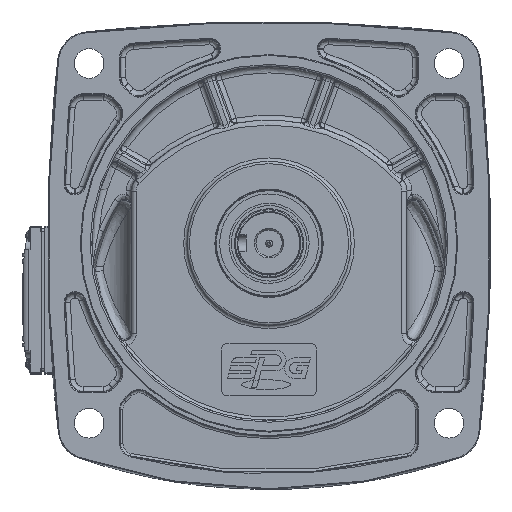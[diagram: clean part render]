
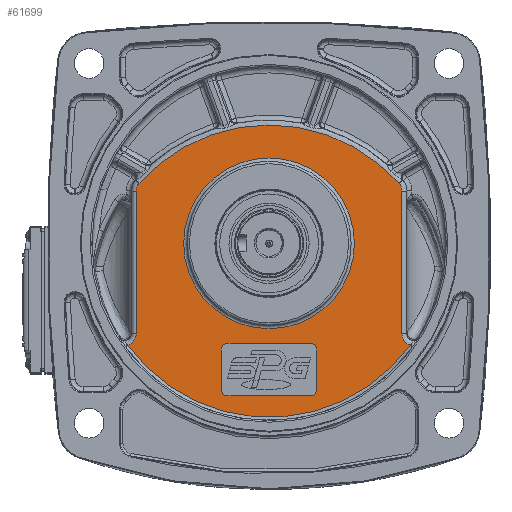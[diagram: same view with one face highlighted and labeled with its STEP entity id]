
A CAD part, top view. The second image highlights one B-rep face of the part: STEP entity #61699.
In plain terms, the highlighted planar face has unit normal (0, 0, 1).
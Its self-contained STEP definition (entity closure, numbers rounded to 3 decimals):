
#688=FACE_BOUND('',#15010,.T.);
#689=FACE_BOUND('',#15011,.T.);
#1406=PLANE('',#67231);
#3687=LINE('',#125399,#6488);
#3691=LINE('',#125411,#6492);
#3695=LINE('',#125423,#6496);
#3792=LINE('',#125699,#6593);
#4032=LINE('',#132457,#6833);
#4033=LINE('',#132472,#6834);
#6488=VECTOR('',#78069,10.);
#6492=VECTOR('',#78081,10.);
#6496=VECTOR('',#78093,10.);
#6593=VECTOR('',#78340,10.);
#6833=VECTOR('',#79656,10.);
#6834=VECTOR('',#79659,10.);
#11132=FACE_OUTER_BOUND('',#15009,.T.);
#15009=EDGE_LOOP('',(#49114,#49115,#49116,#49117,#49118,#49119,#49120,#49121));
#15010=EDGE_LOOP('',(#49122,#49123,#49124,#49125,#49126,#49127,#49128,#49129));
#15011=EDGE_LOOP('',(#49130));
#18480=CIRCLE('',#66609,4.);
#18482=CIRCLE('',#66613,4.);
#18484=CIRCLE('',#66617,4.);
#18486=CIRCLE('',#66621,4.);
#18807=CIRCLE('',#67227,105.999);
#18811=CIRCLE('',#67232,106.076);
#18812=CIRCLE('',#67233,52.);
#21830=B_SPLINE_CURVE_WITH_KNOTS('',3,(#132432,#132433,#132434,#132435,
#132436,#132437),.UNSPECIFIED.,.F.,.F.,(4,1,1,4),(0.901,1.027,
1.54,1.797),.UNSPECIFIED.);
#21832=B_SPLINE_CURVE_WITH_KNOTS('',3,(#132449,#132450,#132451,#132452,
#132453,#132454,#132455),.UNSPECIFIED.,.F.,.F.,(4,1,1,1,4),(0.,
0.257,0.513,0.77,0.896),
 .UNSPECIFIED.);
#21833=B_SPLINE_CURVE_WITH_KNOTS('',3,(#132459,#132460,#132461,#132462,
#132463),.UNSPECIFIED.,.F.,.F.,(4,1,4),(0.,0.217,0.507),
 .UNSPECIFIED.);
#21834=B_SPLINE_CURVE_WITH_KNOTS('',3,(#132467,#132468,#132469,#132470,
#132471),.UNSPECIFIED.,.F.,.F.,(4,1,4),(0.,0.29,0.507),
 .UNSPECIFIED.);
#25912=VERTEX_POINT('',#125389);
#25913=VERTEX_POINT('',#125391);
#25915=VERTEX_POINT('',#125397);
#25917=VERTEX_POINT('',#125403);
#25919=VERTEX_POINT('',#125409);
#25921=VERTEX_POINT('',#125415);
#25923=VERTEX_POINT('',#125421);
#25925=VERTEX_POINT('',#125427);
#26443=VERTEX_POINT('',#132226);
#26444=VERTEX_POINT('',#132228);
#26448=VERTEX_POINT('',#132431);
#26450=VERTEX_POINT('',#132448);
#26451=VERTEX_POINT('',#132456);
#26452=VERTEX_POINT('',#132458);
#26453=VERTEX_POINT('',#132464);
#26454=VERTEX_POINT('',#132466);
#26455=VERTEX_POINT('',#132473);
#33349=EDGE_CURVE('',#25912,#25913,#18480,.T.);
#33353=EDGE_CURVE('',#25912,#25915,#3687,.T.);
#33356=EDGE_CURVE('',#25917,#25915,#18482,.T.);
#33359=EDGE_CURVE('',#25917,#25919,#3691,.T.);
#33362=EDGE_CURVE('',#25921,#25919,#18484,.T.);
#33365=EDGE_CURVE('',#25921,#25923,#3695,.T.);
#33368=EDGE_CURVE('',#25925,#25923,#18486,.T.);
#33504=EDGE_CURVE('',#25925,#25913,#3792,.T.);
#34269=EDGE_CURVE('',#26443,#26444,#18807,.T.);
#34276=EDGE_CURVE('',#26444,#26448,#21830,.T.);
#34279=EDGE_CURVE('',#26450,#26443,#21832,.T.);
#34280=EDGE_CURVE('',#26451,#26450,#4032,.T.);
#34281=EDGE_CURVE('',#26452,#26451,#21833,.T.);
#34282=EDGE_CURVE('',#26453,#26452,#18811,.T.);
#34283=EDGE_CURVE('',#26454,#26453,#21834,.T.);
#34284=EDGE_CURVE('',#26448,#26454,#4033,.T.);
#34285=EDGE_CURVE('',#26455,#26455,#18812,.T.);
#49114=ORIENTED_EDGE('',*,*,#34269,.F.);
#49115=ORIENTED_EDGE('',*,*,#34279,.F.);
#49116=ORIENTED_EDGE('',*,*,#34280,.F.);
#49117=ORIENTED_EDGE('',*,*,#34281,.F.);
#49118=ORIENTED_EDGE('',*,*,#34282,.F.);
#49119=ORIENTED_EDGE('',*,*,#34283,.F.);
#49120=ORIENTED_EDGE('',*,*,#34284,.F.);
#49121=ORIENTED_EDGE('',*,*,#34276,.F.);
#49122=ORIENTED_EDGE('',*,*,#33365,.T.);
#49123=ORIENTED_EDGE('',*,*,#33368,.F.);
#49124=ORIENTED_EDGE('',*,*,#33504,.T.);
#49125=ORIENTED_EDGE('',*,*,#33349,.F.);
#49126=ORIENTED_EDGE('',*,*,#33353,.T.);
#49127=ORIENTED_EDGE('',*,*,#33356,.F.);
#49128=ORIENTED_EDGE('',*,*,#33359,.T.);
#49129=ORIENTED_EDGE('',*,*,#33362,.F.);
#49130=ORIENTED_EDGE('',*,*,#34285,.F.);
#61699=ADVANCED_FACE('',(#11132,#688,#689),#1406,.F.);
#66609=AXIS2_PLACEMENT_3D('',#125392,#78062,#78063);
#66613=AXIS2_PLACEMENT_3D('',#125405,#78075,#78076);
#66617=AXIS2_PLACEMENT_3D('',#125417,#78087,#78088);
#66621=AXIS2_PLACEMENT_3D('',#125429,#78099,#78100);
#67227=AXIS2_PLACEMENT_3D('',#132229,#79646,#79647);
#67231=AXIS2_PLACEMENT_3D('',#132447,#79654,#79655);
#67232=AXIS2_PLACEMENT_3D('',#132465,#79657,#79658);
#67233=AXIS2_PLACEMENT_3D('',#132474,#79660,#79661);
#78062=DIRECTION('center_axis',(0.,0.,1.));
#78063=DIRECTION('ref_axis',(0.707,0.707,0.));
#78069=DIRECTION('',(0.,-1.,0.));
#78075=DIRECTION('center_axis',(0.,0.,1.));
#78076=DIRECTION('ref_axis',(0.707,-0.707,0.));
#78081=DIRECTION('',(-1.,0.,0.));
#78087=DIRECTION('center_axis',(0.,0.,1.));
#78088=DIRECTION('ref_axis',(-0.707,-0.707,0.));
#78093=DIRECTION('',(0.,1.,0.));
#78099=DIRECTION('center_axis',(0.,0.,1.));
#78100=DIRECTION('ref_axis',(-0.707,0.707,0.));
#78340=DIRECTION('',(1.,0.,0.));
#79646=DIRECTION('center_axis',(0.,0.,-1.));
#79647=DIRECTION('ref_axis',(0.,-1.,0.));
#79654=DIRECTION('center_axis',(0.,0.,-1.));
#79655=DIRECTION('ref_axis',(-1.,0.,0.));
#79656=DIRECTION('',(0.,-1.,0.));
#79657=DIRECTION('center_axis',(0.,0.,-1.));
#79658=DIRECTION('ref_axis',(0.,1.,0.));
#79659=DIRECTION('',(0.,1.,0.));
#79660=DIRECTION('center_axis',(0.,0.,1.));
#79661=DIRECTION('ref_axis',(-1.,0.,0.));
#125389=CARTESIAN_POINT('',(31.891,-30.92,88.));
#125391=CARTESIAN_POINT('',(27.891,-26.92,88.));
#125392=CARTESIAN_POINT('Origin',(27.891,-30.92,88.));
#125397=CARTESIAN_POINT('',(31.891,-54.92,88.));
#125399=CARTESIAN_POINT('',(31.891,-29.42,88.));
#125403=CARTESIAN_POINT('',(27.891,-58.92,88.));
#125405=CARTESIAN_POINT('Origin',(27.891,-54.92,88.));
#125409=CARTESIAN_POINT('',(-22.109,-58.92,88.));
#125411=CARTESIAN_POINT('',(-11.609,-58.92,88.));
#125415=CARTESIAN_POINT('',(-26.109,-54.92,88.));
#125417=CARTESIAN_POINT('Origin',(-22.109,-54.92,88.));
#125421=CARTESIAN_POINT('',(-26.109,-30.92,88.));
#125423=CARTESIAN_POINT('',(-26.109,-13.42,88.));
#125427=CARTESIAN_POINT('',(-22.109,-26.92,88.));
#125429=CARTESIAN_POINT('Origin',(-22.109,-30.92,88.));
#125699=CARTESIAN_POINT('',(17.391,-26.92,88.));
#132226=CARTESIAN_POINT('',(88.925,-27.839,88.));
#132228=CARTESIAN_POINT('',(-83.143,-27.839,88.));
#132229=CARTESIAN_POINT('Origin',(2.891,34.08,88.));
#132431=CARTESIAN_POINT('',(-78.109,-21.114,88.));
#132432=CARTESIAN_POINT('Ctrl Pts',(-83.144,-27.838,
88.));
#132433=CARTESIAN_POINT('Ctrl Pts',(-82.738,-27.721,
88.));
#132434=CARTESIAN_POINT('Ctrl Pts',(-80.734,-26.943,
88.));
#132435=CARTESIAN_POINT('Ctrl Pts',(-78.576,-24.563,
88.));
#132436=CARTESIAN_POINT('Ctrl Pts',(-78.109,-21.97,
88.));
#132437=CARTESIAN_POINT('Ctrl Pts',(-78.109,-21.114,
88.));
#132447=CARTESIAN_POINT('Origin',(2.891,0.08,88.));
#132448=CARTESIAN_POINT('',(83.891,-21.114,88.));
#132449=CARTESIAN_POINT('Ctrl Pts',(83.891,-21.114,
88.));
#132450=CARTESIAN_POINT('Ctrl Pts',(83.891,-21.97,
88.));
#132451=CARTESIAN_POINT('Ctrl Pts',(84.21,-23.7,
88.));
#132452=CARTESIAN_POINT('Ctrl Pts',(85.588,-25.927,
88.));
#132453=CARTESIAN_POINT('Ctrl Pts',(87.32,-27.254,
88.));
#132454=CARTESIAN_POINT('Ctrl Pts',(88.52,-27.72,
88.));
#132455=CARTESIAN_POINT('Ctrl Pts',(88.926,-27.837,
88.));
#132456=CARTESIAN_POINT('',(83.891,65.956,88.));
#132457=CARTESIAN_POINT('',(83.891,-47.92,88.));
#132458=CARTESIAN_POINT('',(82.117,70.616,88.));
#132459=CARTESIAN_POINT('Ctrl Pts',(82.117,70.616,88.));
#132460=CARTESIAN_POINT('Ctrl Pts',(82.599,70.075,88.));
#132461=CARTESIAN_POINT('Ctrl Pts',(83.534,68.625,88.));
#132462=CARTESIAN_POINT('Ctrl Pts',(83.891,66.921,88.));
#132463=CARTESIAN_POINT('Ctrl Pts',(83.891,65.956,88.));
#132464=CARTESIAN_POINT('',(-76.336,70.616,88.));
#132465=CARTESIAN_POINT('Origin',(2.891,0.08,88.));
#132466=CARTESIAN_POINT('',(-78.109,65.956,88.));
#132467=CARTESIAN_POINT('Ctrl Pts',(-78.109,65.956,88.));
#132468=CARTESIAN_POINT('Ctrl Pts',(-78.109,66.921,88.));
#132469=CARTESIAN_POINT('Ctrl Pts',(-77.752,68.625,88.));
#132470=CARTESIAN_POINT('Ctrl Pts',(-76.817,70.075,
88.));
#132471=CARTESIAN_POINT('Ctrl Pts',(-76.336,70.616,
88.));
#132472=CARTESIAN_POINT('',(-78.109,-47.92,88.));
#132473=CARTESIAN_POINT('',(54.891,34.08,88.));
#132474=CARTESIAN_POINT('Origin',(2.891,34.08,88.));
